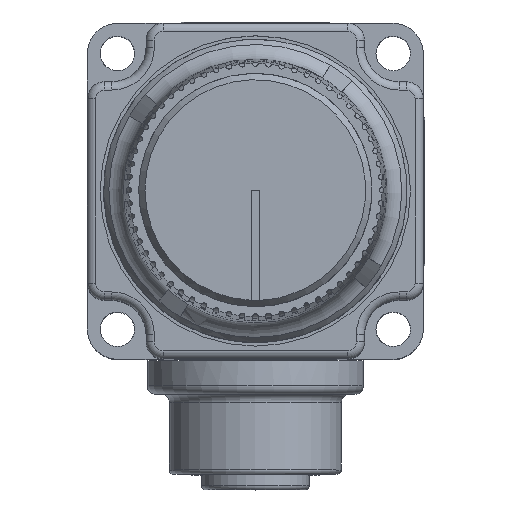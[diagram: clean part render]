
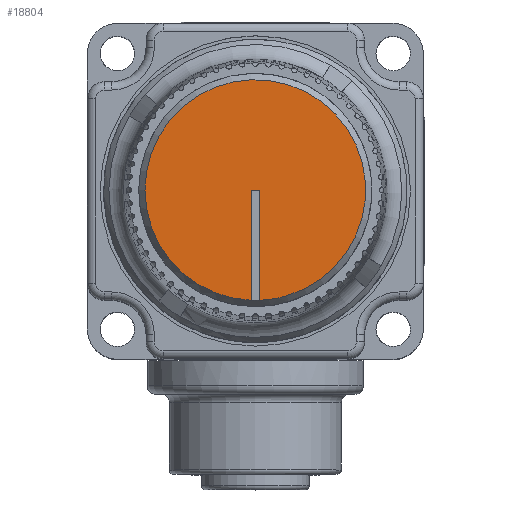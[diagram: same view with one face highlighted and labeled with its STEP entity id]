
A CAD part, top view. The second image highlights one B-rep face of the part: STEP entity #18804.
In plain terms, the highlighted planar face has unit normal (0, 0, 1).
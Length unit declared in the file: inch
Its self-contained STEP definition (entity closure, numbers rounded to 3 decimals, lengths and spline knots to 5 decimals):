
#940=PLANE('',#20450);
#1758=FACE_OUTER_BOUND('',#2851,.T.);
#2851=EDGE_LOOP('',(#14805,#14806,#14807,#14808,#14809));
#3729=CIRCLE('',#20451,0.4);
#3730=CIRCLE('',#20452,0.4);
#5234=LINE('',#31823,#6612);
#5235=LINE('',#31829,#6613);
#5236=LINE('',#31830,#6614);
#6612=VECTOR('',#24678,0.3937);
#6613=VECTOR('',#24683,0.3937);
#6614=VECTOR('',#24684,0.3937);
#8154=VERTEX_POINT('',#31821);
#8155=VERTEX_POINT('',#31822);
#8156=VERTEX_POINT('',#31824);
#8157=VERTEX_POINT('',#31826);
#8158=VERTEX_POINT('',#31828);
#10480=EDGE_CURVE('',#8154,#8155,#5234,.T.);
#10481=EDGE_CURVE('',#8155,#8156,#3729,.T.);
#10482=EDGE_CURVE('',#8156,#8157,#3730,.T.);
#10483=EDGE_CURVE('',#8157,#8158,#5235,.T.);
#10484=EDGE_CURVE('',#8158,#8154,#5236,.T.);
#14805=ORIENTED_EDGE('',*,*,#10480,.T.);
#14806=ORIENTED_EDGE('',*,*,#10481,.T.);
#14807=ORIENTED_EDGE('',*,*,#10482,.T.);
#14808=ORIENTED_EDGE('',*,*,#10483,.T.);
#14809=ORIENTED_EDGE('',*,*,#10484,.T.);
#18804=ADVANCED_FACE('',(#1758),#940,.T.);
#20450=AXIS2_PLACEMENT_3D('',#31820,#24676,#24677);
#20451=AXIS2_PLACEMENT_3D('',#31825,#24679,#24680);
#20452=AXIS2_PLACEMENT_3D('',#31827,#24681,#24682);
#24676=DIRECTION('center_axis',(0.,0.,1.));
#24677=DIRECTION('ref_axis',(1.,0.,0.));
#24678=DIRECTION('',(0.,-1.,0.));
#24679=DIRECTION('center_axis',(0.,0.,
1.));
#24680=DIRECTION('ref_axis',(0.325,0.946,0.));
#24681=DIRECTION('center_axis',(0.,0.,
1.));
#24682=DIRECTION('ref_axis',(0.325,0.946,0.));
#24683=DIRECTION('',(0.,1.,0.));
#24684=DIRECTION('',(1.,0.,0.));
#31820=CARTESIAN_POINT('Origin',(-0.64835,-0.29761,
1.82375));
#31821=CARTESIAN_POINT('',(-0.63335,0.1025,1.82375));
#31822=CARTESIAN_POINT('',(-0.63335,-0.29722,1.82375));
#31823=CARTESIAN_POINT('',(-0.63335,0.1025,1.82375));
#31824=CARTESIAN_POINT('',(-0.53417,-0.28086,1.82375));
#31825=CARTESIAN_POINT('Origin',(-0.64835,0.1025,1.82375));
#31826=CARTESIAN_POINT('',(-0.66335,-0.29722,1.82375));
#31827=CARTESIAN_POINT('Origin',(-0.64835,0.1025,1.82375));
#31828=CARTESIAN_POINT('',(-0.66335,0.1025,1.82375));
#31829=CARTESIAN_POINT('',(-0.66335,-0.29722,1.82375));
#31830=CARTESIAN_POINT('',(-0.66335,0.1025,1.82375));
